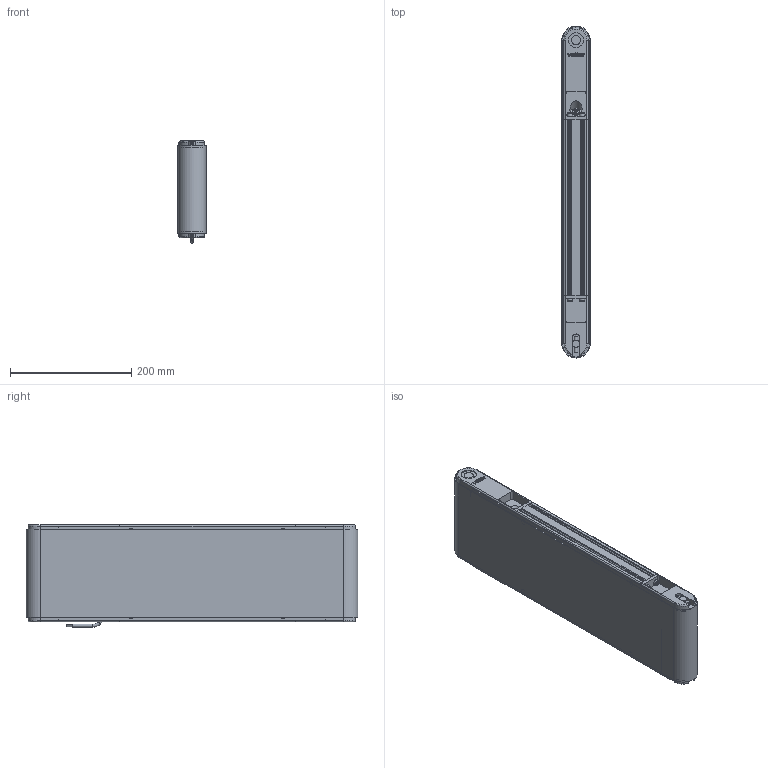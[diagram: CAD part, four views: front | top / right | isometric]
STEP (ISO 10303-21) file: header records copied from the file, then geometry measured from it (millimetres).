
FILE_DESCRIPTION(/* description */ (''),/* implementation_level */ '2;1');
FILE_NAME(/* name */ 'G:\DATEN\CAD\Förderband\Marketing\3D-Modelle (Standard)\FR-40-160\FR-40-160-500-K.stp',/* time_stamp */ '2019-05-08T09:04:55+02:00',/* author */ ('melanie.ochs'),/* organization */ (''),/* preprocessor_version */ 'ST-DEVELOPER v17',/* originating_system */ 'Autodesk Inventor 2019',/* authorisation */ '');
FILE_SCHEMA (('CONFIG_CONTROL_DESIGN'));
Length unit declared in the file: centimetre
Products named in the file (1): FR-40-160-500-K
Bounding box: 46.6 x 546.6 x 168.53 mm (x, y, z)
Volume: 1892979.6 mm3; surface area: 598664.5 mm2
Topology: 6 solids, 25 shells, 996 faces, 2706 edges, 1807 vertices
Faces by surface type: plane 511, cylinder 276, bspline 122, cone 62, torus 25
Full cylindrical faces by diameter (mm): 2 x2, 4 x6, 4.3 x4, 4.917 x1, 5 x11, 5.5 x8, 6 x4, 6.5 x1, 6.647 x3, 8 x4, 8.3 x4, 8.5 x8, 8.773 x1, 10 x1, 11 x1, 12 x5, 15 x2, 20 x4, 25 x2, 28 x4
Entity records: 33862 total; most frequent: CARTESIAN_POINT 8069, ORIENTED_EDGE 5382, DIRECTION 4856, EDGE_CURVE 2691, VERTEX_POINT 1807, AXIS2_PLACEMENT_3D 1682, LINE 1492, VECTOR 1492
